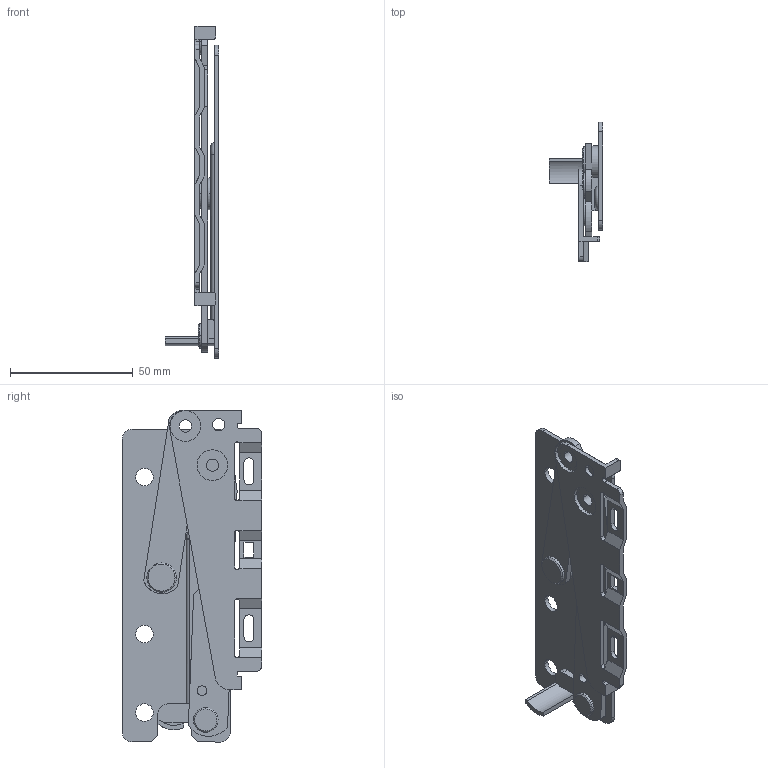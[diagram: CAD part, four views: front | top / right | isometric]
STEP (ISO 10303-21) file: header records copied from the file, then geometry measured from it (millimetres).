
FILE_DESCRIPTION (( 'STEP AP203' ), '1' );
FILE_NAME ('Kinvaro_T-57_rechts_D2575502125~a.step', '2012-05-04T06:44:10', ( 'admin' ), ( 'Hewlett-Packard Company' ), 'SwSTEP 2.0', 'SolidWorks 2011', '' );
FILE_SCHEMA (( 'CONFIG_CONTROL_DESIGN' ));
Length unit declared in the file: millimetre
Products named in the file (1): Kinvaro_T-57_rechts_D2575502125~a
Bounding box: 22 x 56.79 x 135.36 mm (x, y, z)
Volume: 23829.2 mm3; surface area: 25715.4 mm2
Topology: 1 solids, 2 shells, 175 faces, 497 edges, 326 vertices
Faces by surface type: plane 103, cylinder 66, cone 4, torus 2
Entity records: 5846 total; most frequent: CARTESIAN_POINT 1043, ORIENTED_EDGE 994, DIRECTION 991, EDGE_CURVE 497, VECTOR 339, LINE 339, AXIS2_PLACEMENT_3D 326, VERTEX_POINT 326
